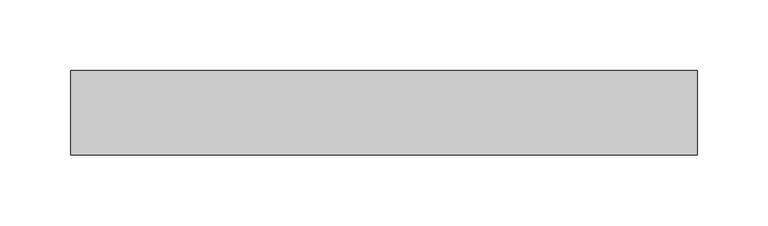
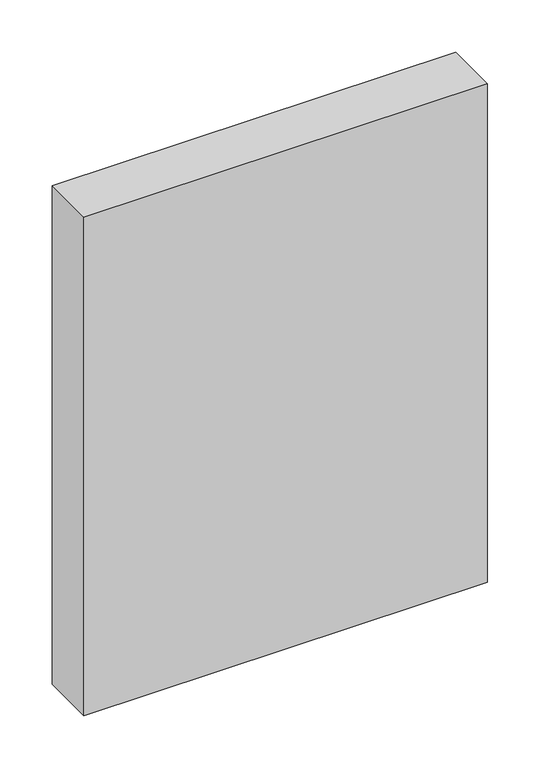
"""IFC4 building model written with IfcOpenShell, lengths in millimetres: plate geometry, Системная панель : Алюкобонд серый."""

import ifcopenshell
import ifcopenshell.guid

model = None  # the IFC model being written
_history = None  # IfcOwnerHistory: only IFC2X3 demands one
_inside = {}  # id of a spatial element -> (the spatial element, [elements in it])
_under = {}  # id of a project, library or spatial element -> (it, [spatial elements below it])
_declared = {}  # id of a project -> (the project, [libraries it declares])
_typed = {}  # id of a type object -> (the type object, [elements of that type])
_made_of = {}  # id of a material, layer set ... -> (it, [elements and type objects made of it])


def new_model(schema):
    """Start an empty IFC model of exactly this schema.

    Asked for "IFC4X3", IfcOpenShell would pick the latest addendum, in which some entities
    have other attributes; the version numbers below select the first issue.
    IFC2X3 requires an IfcOwnerHistory on every rooted entity: one is made here for all.
    """
    global model, _history
    if schema == "IFC4X3":
        model = ifcopenshell.file(schema_version=(4, 3, 0, 0))
    else:
        model = ifcopenshell.file(schema=schema)
    _inside.clear()
    _under.clear()
    _declared.clear()
    _typed.clear()
    _made_of.clear()
    _history = None
    if model.schema == "IFC2X3":
        org = make("IfcOrganization", Name="unknown")
        user = make(
            "IfcPersonAndOrganization",
            ThePerson=make("IfcPerson", FamilyName="unknown"),
            TheOrganization=org,
        )
        app = make(
            "IfcApplication",
            ApplicationDeveloper=org,
            Version="unknown",
            ApplicationFullName="unknown",
            ApplicationIdentifier="unknown",
        )
        _history = make(
            "IfcOwnerHistory",
            OwningUser=user,
            OwningApplication=app,
            ChangeAction="ADDED",
            CreationDate=0,
        )
    return model


def make(cls, **values):
    """One entity of the class cls with the attributes given. An attribute that is None is left unset."""
    return model.create_entity(
        cls, **{name: value for name, value in values.items() if value is not None}
    )


def rooted(cls, **values):
    """An entity with a GlobalId (a new one), such as an element, a storey or a relation."""
    return make(cls, GlobalId=ifcopenshell.guid.new(), OwnerHistory=_history, **values)


def si_unit(unit_type, name, prefix=None):
    """IfcSIUnit, for example si_unit("LENGTHUNIT", "METRE", prefix="MILLI")."""
    return make("IfcSIUnit", UnitType=unit_type, Prefix=prefix, Name=name)


def assignment(units):
    """IfcUnitAssignment: the units of a project."""
    return None if units is None else make("IfcUnitAssignment", Units=units)


def point(xyz):
    """IfcCartesianPoint."""
    return None if xyz is None else make("IfcCartesianPoint", Coordinates=xyz)


def direction(xyz):
    """IfcDirection."""
    return None if xyz is None else make("IfcDirection", DirectionRatios=xyz)


def frame(location, z_axis=None, x_axis=None):
    """IfcAxis2Placement3D, a coordinate frame: its origin and axes. An axis left out is left unset."""
    return make(
        "IfcAxis2Placement3D",
        Location=point(location),
        Axis=direction(z_axis),
        RefDirection=direction(x_axis),
    )


def origin():
    """The frame at (0, 0, 0) with its axes left unset."""
    return frame((0.0, 0.0, 0.0))


def origin_with_axes():
    """The frame at (0, 0, 0) with the z axis (0, 0, 1) and the x axis (1, 0, 0) written out."""
    return frame((0.0, 0.0, 0.0), z_axis=(0.0, 0.0, 1.0), x_axis=(1.0, 0.0, 0.0))


def place(relative_to, where):
    """IfcLocalPlacement: puts the frame where relative to a parent placement (None: the world)."""
    return make(
        "IfcLocalPlacement", PlacementRelTo=relative_to, RelativePlacement=where
    )


def context(
    kind, dimensions, precision=None, world=None, true_north=None, identifier=None
):
    """IfcGeometricRepresentationContext, for example the 3D "Model" context."""
    return make(
        "IfcGeometricRepresentationContext",
        ContextIdentifier=identifier,
        ContextType=kind,
        CoordinateSpaceDimension=dimensions,
        Precision=precision,
        WorldCoordinateSystem=world,
        TrueNorth=true_north,
    )


def project(units=None, contexts=None):
    """IfcProject with its units and contexts."""
    return rooted(
        "IfcProject",
        Name="project",
        RepresentationContexts=contexts,
        UnitsInContext=assignment(units),
    )


def spatial(cls, under=None, at=None, **own):
    """A site, building, storey or space (cls), placed at a placement, below another one or the project."""
    s = rooted(cls, ObjectPlacement=at, **own)
    if under is not None:
        _under.setdefault(under.id(), (under, []))[1].append(s)
    return s


def polyline(points):
    """IfcPolyline through the points."""
    return make("IfcPolyline", Points=[point(p) for p in points])


def outline(outer, holes=None, kind="AREA"):
    """IfcArbitraryClosedProfileDef: a profile drawn as a closed curve; with holes, ...WithVoids."""
    if holes is None:
        return make("IfcArbitraryClosedProfileDef", ProfileType=kind, OuterCurve=outer)
    return make(
        "IfcArbitraryProfileDefWithVoids",
        ProfileType=kind,
        OuterCurve=outer,
        InnerCurves=holes,
    )


def extrude(swept, where, along, depth):
    """IfcExtrudedAreaSolid: the profile swept, set in the frame where, extruded along a direction by depth."""
    return make(
        "IfcExtrudedAreaSolid",
        SweptArea=swept,
        Position=where,
        ExtrudedDirection=direction(along),
        Depth=depth,
    )


def shape(context_of_items, identifier, shape_type, items):
    """IfcShapeRepresentation: the items that make up one representation, for example the "Body"."""
    return make(
        "IfcShapeRepresentation",
        ContextOfItems=context_of_items,
        RepresentationIdentifier=identifier,
        RepresentationType=shape_type,
        Items=items,
    )


def source(mapping_origin, context_of_items, identifier, shape_type, items):
    """IfcRepresentationMap: a shape defined once, which mapped items show again and again."""
    return make(
        "IfcRepresentationMap",
        MappingOrigin=mapping_origin,
        MappedRepresentation=shape(context_of_items, identifier, shape_type, items),
    )


def transform(
    local_origin,
    x_axis=None,
    y_axis=None,
    z_axis=None,
    scale=None,
    scale2=None,
    scale3=None,
    uniform=True,
):
    """IfcCartesianTransformationOperator3D, or its non-uniform kind. x_axis, y_axis, z_axis: its Axis1, 2, 3."""
    if uniform:
        return make(
            "IfcCartesianTransformationOperator3D",
            Axis1=direction(x_axis),
            Axis2=direction(y_axis),
            LocalOrigin=point(local_origin),
            Scale=scale,
            Axis3=direction(z_axis),
        )
    return make(
        "IfcCartesianTransformationOperator3DnonUniform",
        Axis1=direction(x_axis),
        Axis2=direction(y_axis),
        LocalOrigin=point(local_origin),
        Scale=scale,
        Axis3=direction(z_axis),
        Scale2=scale2,
        Scale3=scale3,
    )


def mapped(mapping_source, mapping_target):
    """IfcMappedItem: shows the shape of a source again, moved by a transform."""
    return make(
        "IfcMappedItem", MappingSource=mapping_source, MappingTarget=mapping_target
    )


def made_of(thing, what):
    """Note that an element or type object is made of a material, layer set ...; save() writes the relation."""
    if what is not None:
        _made_of.setdefault(what.id(), (what, []))[1].append(thing)
    return thing


def element(
    cls,
    number,
    at=None,
    inside=None,
    cuts=None,
    type_object=None,
    material=None,
    context=None,
    identifier="Body",
    shape_type=None,
    held_by="IfcProductDefinitionShape",
    body=None,
    shapes=None,
    **own,
):
    """One element of the class cls, such as IfcWall. Its Tag is "e" and its number.

    at: its placement. inside: the storey or other place that contains it. cuts: it is an
    opening in that element (IfcRelVoidsElement). A single representation is given by context,
    identifier, shape_type and body (its items); several are given by shapes. held_by: the class
    of the entity that holds the representations. save() writes the other relations.
    """
    e = rooted(cls, Tag="e%d" % number, ObjectPlacement=at, **own)
    if body is not None:
        shapes = [shape(context, identifier, shape_type, body)]
    if shapes is not None:
        e.Representation = make(held_by, Representations=shapes)
    if inside is not None:
        _inside.setdefault(inside.id(), (inside, []))[1].append(e)
    if cuts is not None:
        rooted(
            "IfcRelVoidsElement", RelatingBuildingElement=cuts, RelatedOpeningElement=e
        )
    if type_object is not None:
        _typed.setdefault(type_object.id(), (type_object, []))[1].append(e)
    return made_of(e, material)


def aggregate(whole, parts):
    """IfcRelAggregates: a whole, such as a stair, and the parts it consists of."""
    return rooted("IfcRelAggregates", RelatingObject=whole, RelatedObjects=parts)


def save(model, path):
    """Write the relations noted so far, then the file.

    IfcRelAggregates (storeys below a building ...), IfcRelContainedInSpatialStructure (elements
    in a storey), IfcRelDefinesByType, IfcRelAssociatesMaterial and IfcRelDeclares: one each for
    every whole, place, type object, material and project.
    """
    for whole, parts in _under.values():
        aggregate(whole, parts)
    for where, things in _inside.values():
        rooted(
            "IfcRelContainedInSpatialStructure",
            RelatedElements=things,
            RelatingStructure=where,
        )
    for kind, things in _typed.values():
        rooted("IfcRelDefinesByType", RelatedObjects=things, RelatingType=kind)
    for what, things in _made_of.values():
        rooted("IfcRelAssociatesMaterial", RelatedObjects=things, RelatingMaterial=what)
    for by, libraries in _declared.values():
        rooted("IfcRelDeclares", RelatingContext=by, RelatedDefinitions=libraries)
    model.write(path)


def plate_7fc71584(model_context):
    return source(origin(), model_context, "Body", "SweptSolid", [
        extrude(outline(polyline([(222.0, -10.5), (-222.0, -10.5), (-222.0, 49.5), (222.0, 49.5), (222.0, -10.5)])), origin_with_axes(), (0.0, 0.0, 1.0), 580.0),
    ])


if __name__ == "__main__":
    model = new_model("IFC4")
    model_context = context("Model", 3, world=origin())
    ifc_project = project(units=[si_unit("LENGTHUNIT", "METRE", prefix="MILLI")], contexts=[model_context])
    site = spatial("IfcSite", under=ifc_project)
    building = spatial("IfcBuilding", under=site)
    placement = place(None, origin())
    plate_shape = plate_7fc71584(model_context)
    element("IfcPlate", 1, ObjectType="Системная панель : Алюкобонд серый", at=placement, inside=building, context=model_context, shape_type="MappedRepresentation", body=[
        mapped(plate_shape, transform((0.0, 0.0, 0.0), x_axis=(1.0, 0.0, 0.0), y_axis=(0.0, 1.0, 0.0), z_axis=(0.0, 0.0, 1.0))),
    ])
    save(model, "model.ifc")
